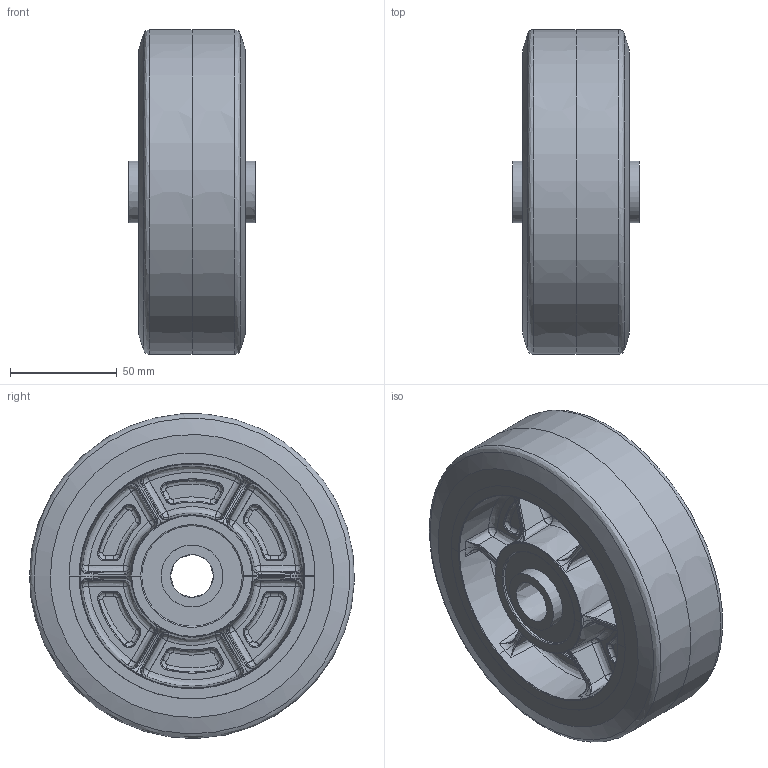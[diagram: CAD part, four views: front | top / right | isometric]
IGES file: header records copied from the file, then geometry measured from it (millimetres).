
Start section: JAMA-IS VERSION  1.0
Global section: file name: C:\CAM-TOOL data\ToolsFile\INOAC車輪\5月\HP-150W\HP-150W-ALL.igs; native system: CAM-TOOL; preprocessor: C3out Version 11.1.1.50212 (2015/02/12); author: NONE; organization: NONE; date: 230626.165504; units: millimetre
Bounding box: 59 x 152 x 152 mm (x, y, z)
Surface area: 135731.5 mm2 (no closed solid volume)
Topology: 0 solids, 0 shells, 733 faces, 5785 edges, 6004 vertices
Faces by surface type: bspline 733
